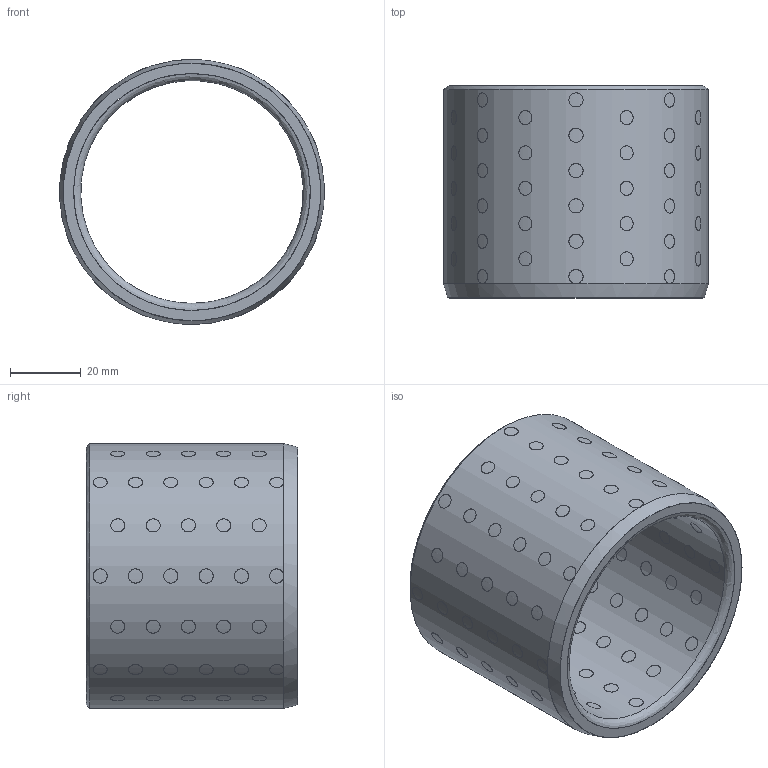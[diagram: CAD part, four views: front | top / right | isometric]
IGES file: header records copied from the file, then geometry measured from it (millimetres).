
Start section: Missler Software BP 521, 31674 Labege Cedex, France Tel   : +33 (0)5 61 00 03 00 Fax   : +33 (0)5 61 00 03 03 Email : sup.topsolid@topsolid.com
Global section: file name: D:\Cuma\18 03 2010\D30.04-2\D30.04_636075.igs; native system: TopSolid v605250 Missler Software; preprocessor: IGES preprocessor v100000; date: 030126.012737; units: millimetre
Bounding box: 75 x 60 x 75 mm (x, y, z)
Surface area: 37630.6 mm2 (no closed solid volume)
Topology: 0 solids, 0 shells, 296 faces, 4949 edges, 4752 vertices
Faces by surface type: bspline 296
